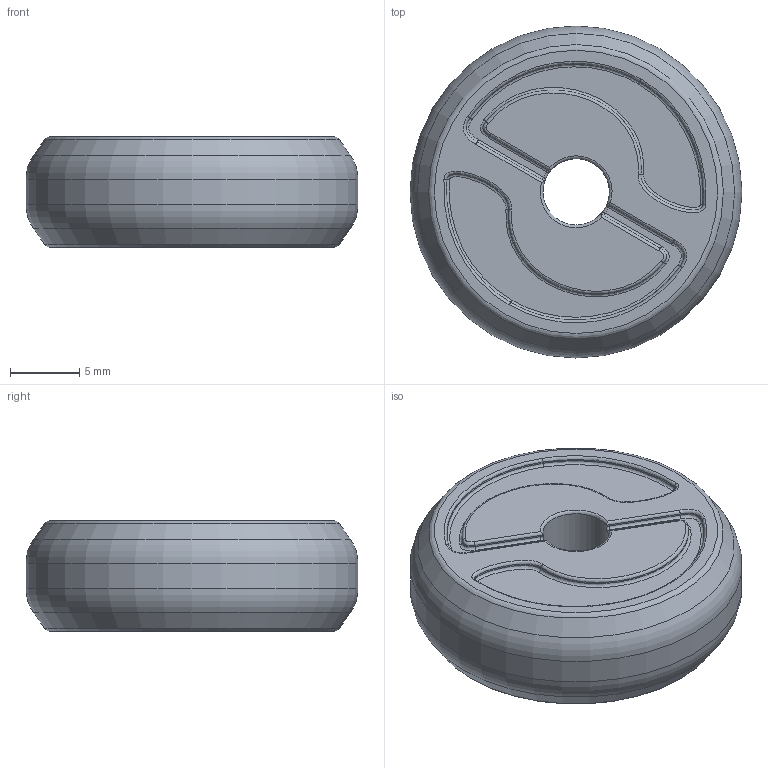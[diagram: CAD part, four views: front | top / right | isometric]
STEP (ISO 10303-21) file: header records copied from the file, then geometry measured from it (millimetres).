
FILE_DESCRIPTION(/* description */ (''),/* implementation_level */ '2;1');
FILE_NAME(/* name */ '/Users/jmac/Desktop/CAD Refresh/Evo Puck/Evo Puck.step',/* time_stamp */ '2022-09-21T15:53:58-06:00',/* author */ (''),/* organization */ (''),/* preprocessor_version */ 'ST-DEVELOPER v19',/* originating_system */ 'Autodesk Translation Framework v11.7.0.108',/* authorisation */ '');
FILE_SCHEMA (('AUTOMOTIVE_DESIGN { 1 0 10303 214 3 1 1 }'));
Length unit declared in the file: millimetre
Products named in the file (2): Evo Puck_CAD Library; Puck
Assembly tree (1 placements, depth 2):
  Evo Puck_CAD Library
    Puck
Bounding box: 24 x 24 x 8 mm (x, y, z)
Volume: 3105.4 mm3; surface area: 1485.5 mm2
Topology: 1 solids, 1 shells, 126 faces, 297 edges, 173 vertices
Faces by surface type: bspline 80, cylinder 18, plane 14, torus 12, cone 2
Full cylindrical faces by diameter (mm): 4.8 x1, 24 x1
Entity records: 10033 total; most frequent: CARTESIAN_POINT 7706, ORIENTED_EDGE 594, EDGE_CURVE 297, DIRECTION 252, B_SPLINE_CURVE_WITH_KNOTS 184, VERTEX_POINT 173, EDGE_LOOP 128, FACE_OUTER_BOUND 126
